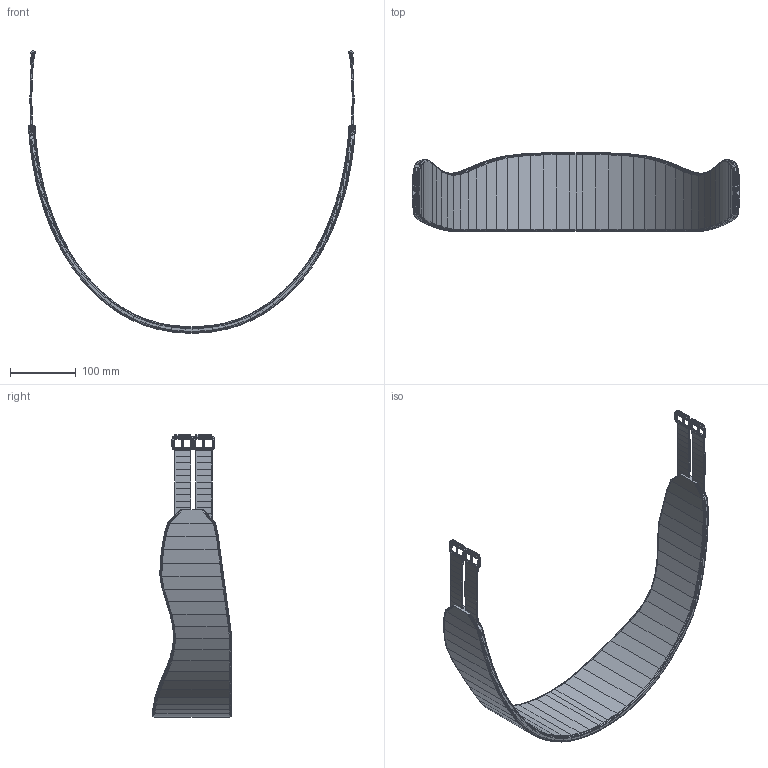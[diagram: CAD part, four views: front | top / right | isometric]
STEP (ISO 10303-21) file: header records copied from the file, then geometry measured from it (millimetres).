
FILE_DESCRIPTION(('AVO Performance Horse - montaje de la cincha (B-rep poliedrico)'),'2;1');
FILE_NAME('Cincha_Horze','2026-11-15T12:00:00',('AVO Performance Horse'),('AVO Performance Horse'),'avo_cad.py','avo_cad.py (numpy)','');
FILE_SCHEMA(('AUTOMOTIVE_DESIGN { 1 0 10303 214 1 1 1 1 }'));
Length unit declared in the file: millimetre
Products named in the file (1): Cincha_Horze
Bounding box: 497.8 x 119.95 x 429.62 mm (x, y, z)
Volume: 898149.1 mm3; surface area: 221739.7 mm2
Topology: 17 solids, 17 shells, 3120 faces, 5110 edges, 2016 vertices
Faces by surface type: plane 3120
Entity records: 53718 total; most frequent: ORIENTED_EDGE 10220, DIRECTION 8351, VECTOR 5110, LINE 5110, EDGE_CURVE 5110, AXIS2_PLACEMENT_3D 3121, EDGE_LOOP 3120, FACE_OUTER_BOUND 3120
